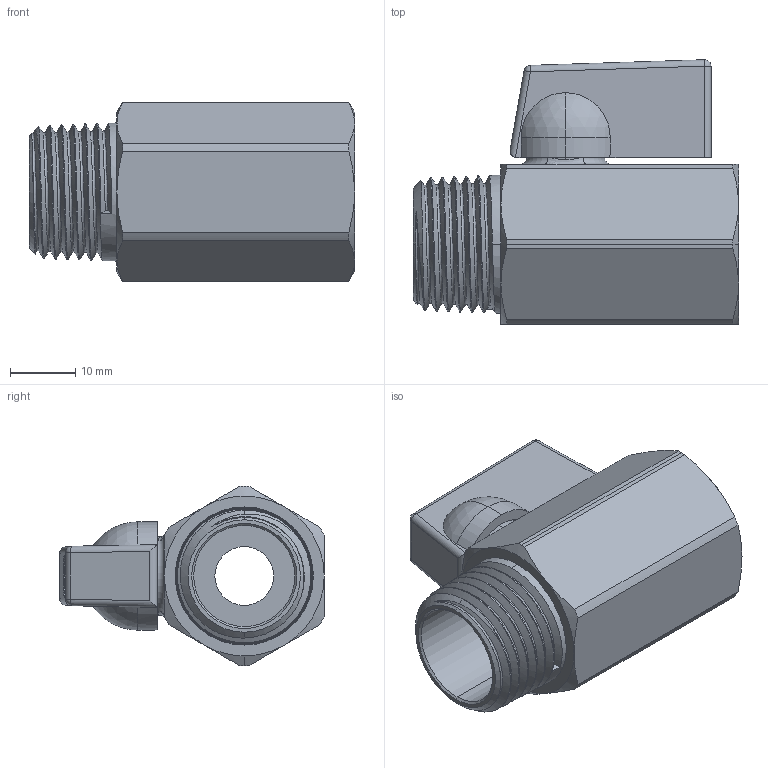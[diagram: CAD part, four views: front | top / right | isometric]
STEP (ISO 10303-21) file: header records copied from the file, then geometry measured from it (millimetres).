
FILE_DESCRIPTION (( 'STEP AP214' ), '1' );
FILE_NAME ('100-443.STEP', '2025-11-06T16:38:56', ( '' ), ( '' ), 'SwSTEP 2.0', 'SolidWorks 2025', '' );
FILE_SCHEMA (( 'AUTOMOTIVE_DESIGN' ));
Length unit declared in the file: inch
Products named in the file (10): 31_______16.STEP; 16___3.STEP; 1051_____16.STEP; 14_______3.STEP; _____16.STEP; 1084.STEP; O-ring_16.STEP; 1084__-0_1.STEP; 100-443; 1084___3.STEP
Assembly tree (11 placements, depth 3):
  100-443
    1084.STEP
      1051_____16.STEP
      1084___3.STEP
      14_______3.STEP  x2
      16___3.STEP
      31_______16.STEP
      O-ring_16.STEP  x2
      _____16.STEP
      1084__-0_1.STEP
Bounding box: 49.8 x 40.52 x 27.5 mm (x, y, z)
Volume: 17695.9 mm3; surface area: 15472.8 mm2
Topology: 10 solids, 10 shells, 359 faces, 888 edges, 559 vertices
Faces by surface type: cylinder 123, plane 89, cone 66, bspline 33, torus 28, sphere 20
Entity records: 27816 total; most frequent: CARTESIAN_POINT 19744, ORIENTED_EDGE 1688, DIRECTION 1590, EDGE_CURVE 844, AXIS2_PLACEMENT_3D 652, VERTEX_POINT 535, EDGE_LOOP 367, FACE_OUTER_BOUND 339
